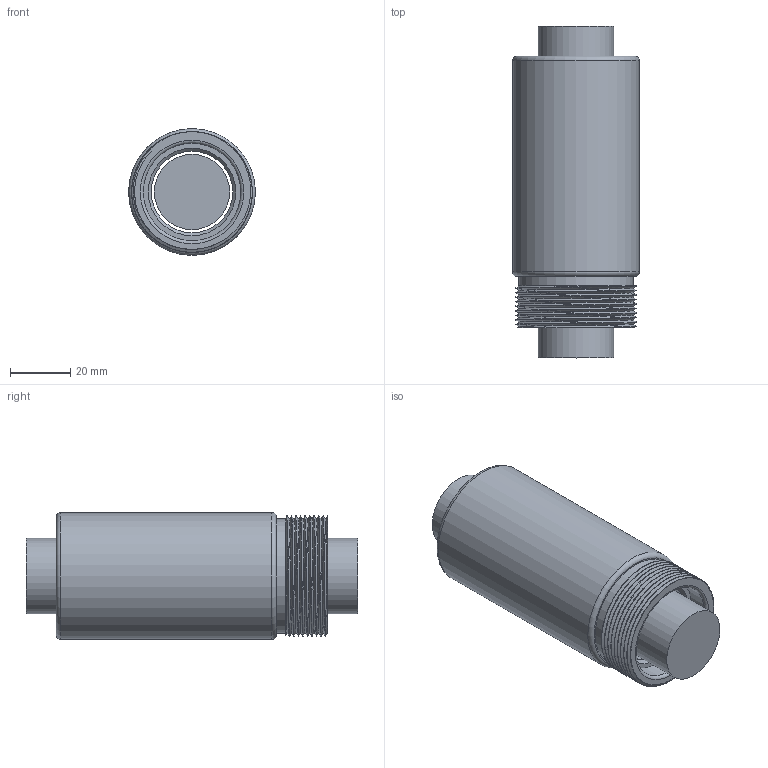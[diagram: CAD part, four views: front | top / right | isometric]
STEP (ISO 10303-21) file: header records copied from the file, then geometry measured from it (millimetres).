
FILE_DESCRIPTION(/* description */ (''),/* implementation_level */ '2;1');
FILE_NAME(/* name */ '2510.prt.step',/* time_stamp */ '2008-12-05T09:42:15+08:00',/* author */ (''),/* organization */ (''),/* preprocessor_version */ 'ST-DEVELOPER v11',/* originating_system */ 'SIEMENS UGS NX 6.0',/* authorisation */ '');
FILE_SCHEMA (('AUTOMOTIVE_DESIGN { 1 0 10303 214 1 1 1 1 }'));
Length unit declared in the file: millimetre
Products named in the file (1): 2510
Bounding box: 42 x 110 x 42 mm (x, y, z)
Volume: 119743.1 mm3; surface area: 31843.9 mm2
Topology: 2 solids, 2 shells, 24 faces, 45 edges, 29 vertices
Faces by surface type: cylinder 8, plane 8, torus 4, bspline 2, cone 2
Full cylindrical faces by diameter (mm): 24.95 x1, 27 x1, 32.3 x2, 38 x1, 42 x1
Entity records: 2292 total; most frequent: CARTESIAN_POINT 1841, DIRECTION 90, ORIENTED_EDGE 60, AXIS2_PLACEMENT_3D 45, EDGE_LOOP 42, FACE_BOUND 36, EDGE_CURVE 30, VERTEX_POINT 26
